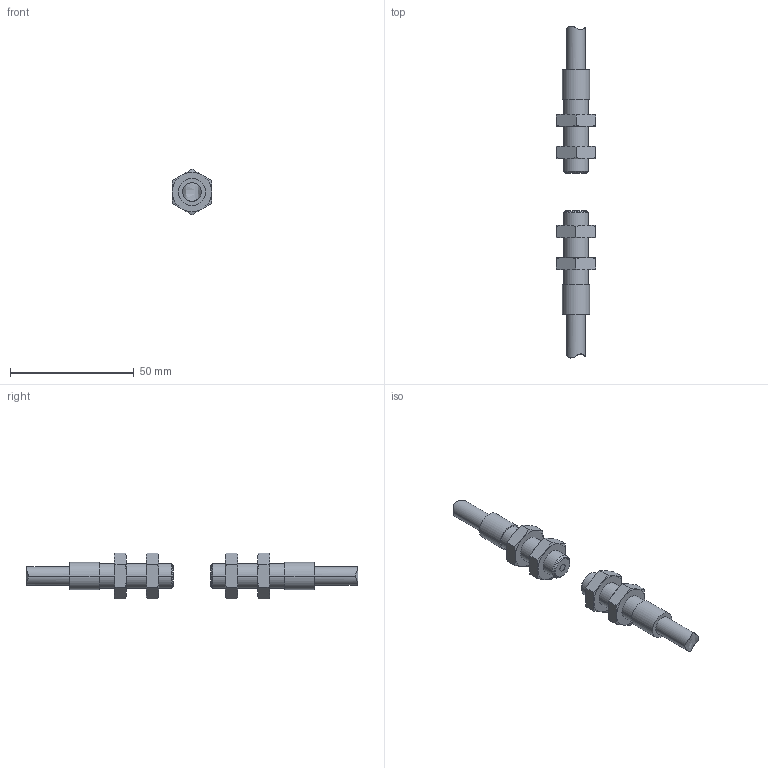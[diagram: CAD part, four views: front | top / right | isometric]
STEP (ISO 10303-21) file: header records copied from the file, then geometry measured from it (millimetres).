
FILE_DESCRIPTION((''),'2;1');
FILE_NAME('0000366332_ASM','2021-03-05T12:09:12',('11000714'),(''),'CREO PARAMETRIC BY PTC INC, 2019030','CREO PARAMETRIC BY PTC INC, 2019030','');
FILE_SCHEMA(('AUTOMOTIVE_DESIGN { 1 0 10303 214 1 1 1 1 }'));
Length unit declared in the file: millimetre
Products named in the file (3): 0000366326; 0000040818; 0000366332_ASM
Assembly tree (6 placements, depth 2):
  0000366332_ASM
    0000366326  x2
    0000040818  x4
Bounding box: 16 x 134.2 x 18.48 mm (x, y, z)
Volume: 11672.7 mm3; surface area: 8994 mm2
Topology: 6 solids, 12 shells, 146 faces, 336 edges, 212 vertices
Faces by surface type: cone 68, plane 40, cylinder 36, extrusion 2
Entity records: 6280 total; most frequent: CARTESIAN_POINT 2473, DIRECTION 315, PROPERTY_DEFINITION 299, REPRESENTATION 295, PROPERTY_DEFINITION_REPRESENTATION 295, DESCRIPTIVE_REPRESENTATION_ITEM 258, GENERAL_PROPERTY 250, GENERAL_PROPERTY_ASSOCIATION 250
